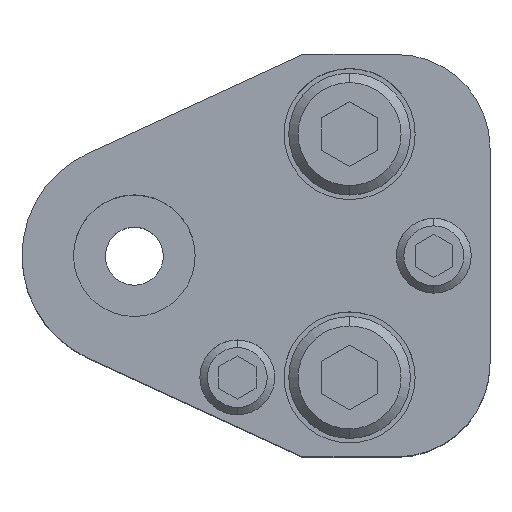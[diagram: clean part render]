
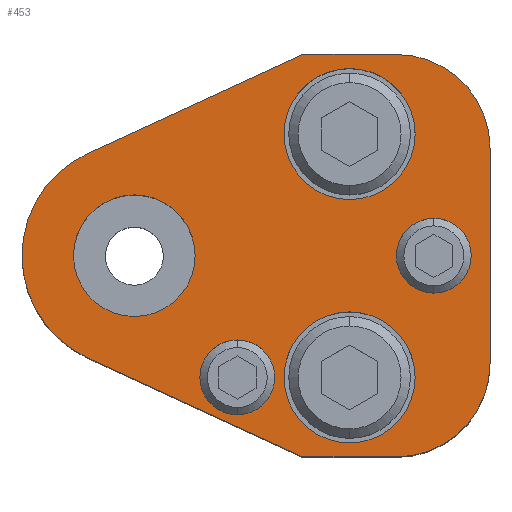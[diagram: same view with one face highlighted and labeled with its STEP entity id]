
A CAD part, top view. The second image highlights one B-rep face of the part: STEP entity #453.
In plain terms, the highlighted planar face has unit normal (0, 0, 1).
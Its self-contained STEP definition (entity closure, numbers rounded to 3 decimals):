
#207=FACE_BOUND('',#813,.T.);
#208=FACE_BOUND('',#814,.T.);
#209=FACE_BOUND('',#815,.T.);
#210=FACE_BOUND('',#816,.T.);
#211=FACE_BOUND('',#817,.T.);
#212=FACE_BOUND('',#818,.T.);
#273=CIRCLE('',#2646,12.);
#275=CIRCLE('',#2651,10.);
#277=CIRCLE('',#2655,10.);
#279=CIRCLE('',#2660,4.);
#281=CIRCLE('',#2663,4.);
#283=CIRCLE('',#2666,4.);
#285=CIRCLE('',#2669,4.);
#295=CIRCLE('',#2684,7.);
#296=CIRCLE('',#2685,7.);
#297=CIRCLE('',#2686,7.);
#298=CIRCLE('',#2687,7.);
#299=CIRCLE('',#2688,6.5);
#300=CIRCLE('',#2689,6.5);
#453=ADVANCED_FACE('',(#207,#208,#209,#210,#211,#212),#585,.T.);
#585=PLANE('',#2690);
#813=EDGE_LOOP('',(#1147,#1148,#1149,#1150,#1151,#1152,#1153,#1154));
#814=EDGE_LOOP('',(#1155,#1156));
#815=EDGE_LOOP('',(#1157,#1158));
#816=EDGE_LOOP('',(#1159,#1160));
#817=EDGE_LOOP('',(#1161,#1162));
#818=EDGE_LOOP('',(#1163,#1164));
#1147=ORIENTED_EDGE('',*,*,#1934,.T.);
#1148=ORIENTED_EDGE('',*,*,#1938,.T.);
#1149=ORIENTED_EDGE('',*,*,#1941,.T.);
#1150=ORIENTED_EDGE('',*,*,#1944,.T.);
#1151=ORIENTED_EDGE('',*,*,#1947,.T.);
#1152=ORIENTED_EDGE('',*,*,#1950,.T.);
#1153=ORIENTED_EDGE('',*,*,#1953,.T.);
#1154=ORIENTED_EDGE('',*,*,#1956,.T.);
#1155=ORIENTED_EDGE('',*,*,#1981,.F.);
#1156=ORIENTED_EDGE('',*,*,#1982,.F.);
#1157=ORIENTED_EDGE('',*,*,#1983,.F.);
#1158=ORIENTED_EDGE('',*,*,#1984,.F.);
#1159=ORIENTED_EDGE('',*,*,#1967,.F.);
#1160=ORIENTED_EDGE('',*,*,#1963,.F.);
#1161=ORIENTED_EDGE('',*,*,#1961,.F.);
#1162=ORIENTED_EDGE('',*,*,#1957,.F.);
#1163=ORIENTED_EDGE('',*,*,#1985,.T.);
#1164=ORIENTED_EDGE('',*,*,#1986,.T.);
#1688=VERTEX_POINT('',#3846);
#1689=VERTEX_POINT('',#3848);
#1692=VERTEX_POINT('',#3855);
#1694=VERTEX_POINT('',#3861);
#1696=VERTEX_POINT('',#3867);
#1698=VERTEX_POINT('',#3873);
#1700=VERTEX_POINT('',#3879);
#1702=VERTEX_POINT('',#3885);
#1703=VERTEX_POINT('',#3893);
#1704=VERTEX_POINT('',#3894);
#1707=VERTEX_POINT('',#3905);
#1708=VERTEX_POINT('',#3906);
#1719=VERTEX_POINT('',#3941);
#1720=VERTEX_POINT('',#3942);
#1721=VERTEX_POINT('',#3945);
#1722=VERTEX_POINT('',#3946);
#1723=VERTEX_POINT('',#3949);
#1724=VERTEX_POINT('',#3950);
#1934=EDGE_CURVE('',#1689,#1688,#273,.T.);
#1938=EDGE_CURVE('',#1688,#1692,#2266,.T.);
#1941=EDGE_CURVE('',#1692,#1694,#2269,.T.);
#1944=EDGE_CURVE('',#1694,#1696,#275,.T.);
#1947=EDGE_CURVE('',#1696,#1698,#2273,.T.);
#1950=EDGE_CURVE('',#1698,#1700,#277,.T.);
#1953=EDGE_CURVE('',#1700,#1702,#2277,.T.);
#1956=EDGE_CURVE('',#1702,#1689,#2280,.T.);
#1957=EDGE_CURVE('',#1703,#1704,#279,.T.);
#1961=EDGE_CURVE('',#1704,#1703,#281,.T.);
#1963=EDGE_CURVE('',#1707,#1708,#283,.T.);
#1967=EDGE_CURVE('',#1708,#1707,#285,.T.);
#1981=EDGE_CURVE('',#1719,#1720,#295,.T.);
#1982=EDGE_CURVE('',#1720,#1719,#296,.T.);
#1983=EDGE_CURVE('',#1721,#1722,#297,.T.);
#1984=EDGE_CURVE('',#1722,#1721,#298,.T.);
#1985=EDGE_CURVE('',#1723,#1724,#299,.T.);
#1986=EDGE_CURVE('',#1724,#1723,#300,.T.);
#2266=LINE('',#3856,#2458);
#2269=LINE('',#3862,#2461);
#2273=LINE('',#3874,#2465);
#2277=LINE('',#3886,#2469);
#2280=LINE('',#3890,#2472);
#2458=VECTOR('',#3056,1.);
#2461=VECTOR('',#3061,1.);
#2465=VECTOR('',#3073,1.);
#2469=VECTOR('',#3085,1.);
#2472=VECTOR('',#3090,1.);
#2646=AXIS2_PLACEMENT_3D('',#3847,#3048,#3049);
#2651=AXIS2_PLACEMENT_3D('',#3868,#3066,#3067);
#2655=AXIS2_PLACEMENT_3D('',#3880,#3078,#3079);
#2660=AXIS2_PLACEMENT_3D('',#3892,#3093,#3094);
#2663=AXIS2_PLACEMENT_3D('',#3901,#3101,#3102);
#2666=AXIS2_PLACEMENT_3D('',#3904,#3107,#3108);
#2669=AXIS2_PLACEMENT_3D('',#3913,#3115,#3116);
#2684=AXIS2_PLACEMENT_3D('',#3940,#3149,#3150);
#2685=AXIS2_PLACEMENT_3D('',#3943,#3151,#3152);
#2686=AXIS2_PLACEMENT_3D('',#3944,#3153,#3154);
#2687=AXIS2_PLACEMENT_3D('',#3947,#3155,#3156);
#2688=AXIS2_PLACEMENT_3D('',#3948,#3157,#3158);
#2689=AXIS2_PLACEMENT_3D('',#3951,#3159,#3160);
#2690=AXIS2_PLACEMENT_3D('',#3952,#3161,#3162);
#3048=DIRECTION('',(0.,0.,1.));
#3049=DIRECTION('',(0.,1.,0.));
#3056=DIRECTION('',(0.908,-0.418,0.));
#3061=DIRECTION('',(1.,0.,0.));
#3066=DIRECTION('',(0.,0.,1.));
#3067=DIRECTION('',(-0.707,0.707,0.));
#3073=DIRECTION('',(0.,1.,0.));
#3078=DIRECTION('',(0.,0.,1.));
#3079=DIRECTION('',(-0.707,-0.707,0.));
#3085=DIRECTION('',(-1.,0.,0.));
#3090=DIRECTION('',(-0.908,-0.418,0.));
#3093=DIRECTION('',(0.,0.,1.));
#3094=DIRECTION('',(1.,0.,0.));
#3101=DIRECTION('',(0.,0.,1.));
#3102=DIRECTION('',(-1.,0.,0.));
#3107=DIRECTION('',(0.,0.,1.));
#3108=DIRECTION('',(1.,0.,0.));
#3115=DIRECTION('',(0.,0.,1.));
#3116=DIRECTION('',(-1.,0.,0.));
#3149=DIRECTION('',(0.,0.,1.));
#3150=DIRECTION('',(1.,0.,0.));
#3151=DIRECTION('',(0.,0.,1.));
#3152=DIRECTION('',(-1.,0.,0.));
#3153=DIRECTION('',(0.,0.,1.));
#3154=DIRECTION('',(1.,0.,0.));
#3155=DIRECTION('',(0.,0.,1.));
#3156=DIRECTION('',(-1.,0.,0.));
#3157=DIRECTION('',(0.,0.,-1.));
#3158=DIRECTION('',(-1.,0.,0.));
#3159=DIRECTION('',(0.,0.,-1.));
#3160=DIRECTION('',(1.,0.,0.));
#3161=DIRECTION('',(0.,0.,1.));
#3162=DIRECTION('',(0.908,0.418,0.));
#3846=CARTESIAN_POINT('',(-5.019,-10.9,35.));
#3847=CARTESIAN_POINT('',(0.,0.,35.));
#3848=CARTESIAN_POINT('',(-5.019,10.9,35.));
#3855=CARTESIAN_POINT('',(18.,-21.5,35.));
#3856=CARTESIAN_POINT('',(18.,-21.5,35.));
#3861=CARTESIAN_POINT('',(28.,-21.5,35.));
#3862=CARTESIAN_POINT('',(18.,-21.5,35.));
#3867=CARTESIAN_POINT('',(38.,-11.5,35.));
#3868=CARTESIAN_POINT('',(28.,-11.5,35.));
#3873=CARTESIAN_POINT('',(38.,11.5,35.));
#3874=CARTESIAN_POINT('',(38.,-11.5,35.));
#3879=CARTESIAN_POINT('',(28.,21.5,35.));
#3880=CARTESIAN_POINT('',(28.,11.5,35.));
#3885=CARTESIAN_POINT('',(18.,21.5,35.));
#3886=CARTESIAN_POINT('',(18.,21.5,35.));
#3890=CARTESIAN_POINT('',(18.,21.5,35.));
#3892=CARTESIAN_POINT('',(11.,-13.,35.));
#3893=CARTESIAN_POINT('',(11.,-9.,35.));
#3894=CARTESIAN_POINT('',(11.,-17.,35.));
#3901=CARTESIAN_POINT('',(11.,-13.,35.));
#3904=CARTESIAN_POINT('',(32.,0.,35.));
#3905=CARTESIAN_POINT('',(32.,4.,35.));
#3906=CARTESIAN_POINT('',(32.,-4.,35.));
#3913=CARTESIAN_POINT('',(32.,0.,35.));
#3940=CARTESIAN_POINT('',(23.,-13.,35.));
#3941=CARTESIAN_POINT('',(23.,-6.,35.));
#3942=CARTESIAN_POINT('',(23.,-20.,35.));
#3943=CARTESIAN_POINT('',(23.,-13.,35.));
#3944=CARTESIAN_POINT('',(23.,13.,35.));
#3945=CARTESIAN_POINT('',(23.,20.,35.));
#3946=CARTESIAN_POINT('',(23.,6.,35.));
#3947=CARTESIAN_POINT('',(23.,13.,35.));
#3948=CARTESIAN_POINT('',(0.,0.,35.));
#3949=CARTESIAN_POINT('',(0.,6.5,35.));
#3950=CARTESIAN_POINT('',(0.,-6.5,35.));
#3951=CARTESIAN_POINT('',(0.,0.,35.));
#3952=CARTESIAN_POINT('',(-5.019,10.9,35.));
